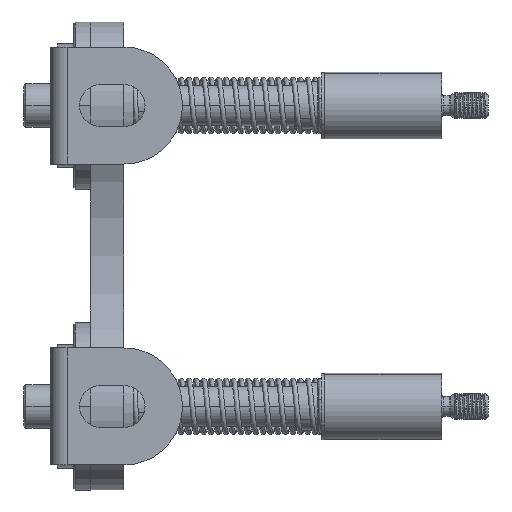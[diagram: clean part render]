
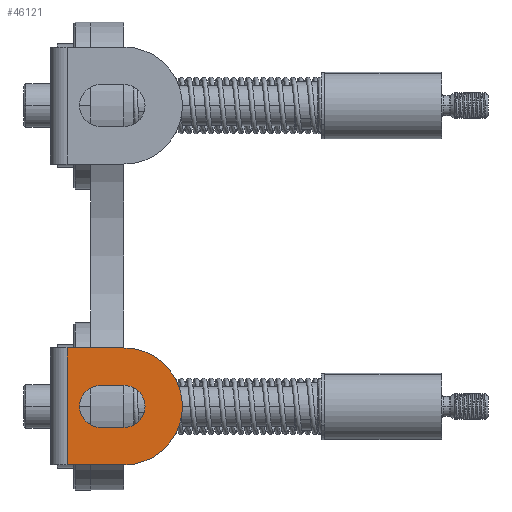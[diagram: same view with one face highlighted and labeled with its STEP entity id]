
A CAD part, left-side view. The second image highlights one B-rep face of the part: STEP entity #46121.
In plain terms, the highlighted planar face has unit normal (-1, 0, 0).
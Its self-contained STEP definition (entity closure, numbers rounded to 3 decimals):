
#64 = AXIS2_PLACEMENT_3D ( 'NONE', #42605, #29809, #21951 ) ;
#172 = LINE ( 'NONE', #12180, #48568 ) ;
#1618 = ORIENTED_EDGE ( 'NONE', *, *, #42352, .T. ) ;
#1858 = VECTOR ( 'NONE', #11670, 1000. ) ;
#2212 = AXIS2_PLACEMENT_3D ( 'NONE', #43453, #18862, #51287 ) ;
#3269 = EDGE_CURVE ( 'NONE', #18511, #31657, #13054, .T. ) ;
#3320 = EDGE_LOOP ( 'NONE', ( #41559, #33216, #13595, #45151, #16492 ) ) ;
#3548 = PLANE ( 'NONE',  #31992 ) ;
#5722 = AXIS2_PLACEMENT_3D ( 'NONE', #33762, #29338, #13895 ) ;
#5762 = DIRECTION ( 'NONE',  ( 0., -1., 0. ) ) ;
#6023 = VERTEX_POINT ( 'NONE', #15615 ) ;
#6166 = EDGE_CURVE ( 'NONE', #31657, #14651, #15351, .T. ) ;
#8255 = FACE_OUTER_BOUND ( 'NONE', #16270, .T. ) ;
#8442 = CARTESIAN_POINT ( 'NONE',  ( -116.5, 13.3, -45. ) ) ;
#8858 = VERTEX_POINT ( 'NONE', #25327 ) ;
#10660 = VERTEX_POINT ( 'NONE', #36806 ) ;
#10669 = CARTESIAN_POINT ( 'NONE',  ( -116.5, 7., -38.7 ) ) ;
#11377 = DIRECTION ( 'NONE',  ( -1., 0., 0. ) ) ;
#11670 = DIRECTION ( 'NONE',  ( 0., 1., 0. ) ) ;
#12132 = CARTESIAN_POINT ( 'NONE',  ( -116.5, 0., -62.5 ) ) ;
#12180 = CARTESIAN_POINT ( 'NONE',  ( -116.5, 17., -45. ) ) ;
#13054 = CIRCLE ( 'NONE', #2212, 6.3 ) ;
#13595 = ORIENTED_EDGE ( 'NONE', *, *, #3269, .F. ) ;
#13895 = DIRECTION ( 'NONE',  ( 0., 1., 0. ) ) ;
#14651 = VERTEX_POINT ( 'NONE', #18944 ) ;
#14660 = VECTOR ( 'NONE', #30787, 1000. ) ;
#15351 = LINE ( 'NONE', #10669, #14660 ) ;
#15615 = CARTESIAN_POINT ( 'NONE',  ( -116.5, 17., -62.5 ) ) ;
#15842 = CARTESIAN_POINT ( 'NONE',  ( -116.5, 20., -27.5 ) ) ;
#16270 = EDGE_LOOP ( 'NONE', ( #42871, #1618, #50655, #27110, #35103 ) ) ;
#16492 = ORIENTED_EDGE ( 'NONE', *, *, #25449, .F. ) ;
#16761 = LINE ( 'NONE', #21179, #30930 ) ;
#17756 = CIRCLE ( 'NONE', #45320, 17.5 ) ;
#18511 = VERTEX_POINT ( 'NONE', #51648 ) ;
#18862 = DIRECTION ( 'NONE',  ( -1., 0., 0. ) ) ;
#18944 = CARTESIAN_POINT ( 'NONE',  ( -116.5, 7., -38.7 ) ) ;
#19475 = CARTESIAN_POINT ( 'NONE',  ( -116.5, 0., -45. ) ) ;
#20005 = DIRECTION ( 'NONE',  ( -1., 0., 0. ) ) ;
#21179 = CARTESIAN_POINT ( 'NONE',  ( -116.5, 7., -51.3 ) ) ;
#21545 = LINE ( 'NONE', #24962, #44977 ) ;
#21951 = DIRECTION ( 'NONE',  ( 0., 1., 0. ) ) ;
#24190 = DIRECTION ( 'NONE',  ( 0., 1., 0. ) ) ;
#24962 = CARTESIAN_POINT ( 'NONE',  ( -116.5, 0., -62.5 ) ) ;
#25327 = CARTESIAN_POINT ( 'NONE',  ( -116.5, 7., -51.3 ) ) ;
#25342 = EDGE_CURVE ( 'NONE', #6023, #40784, #21545, .T. ) ;
#25449 = EDGE_CURVE ( 'NONE', #51436, #8858, #51685, .T. ) ;
#26504 = CARTESIAN_POINT ( 'NONE',  ( -116.5, 7., -45. ) ) ;
#27110 = ORIENTED_EDGE ( 'NONE', *, *, #45742, .T. ) ;
#27525 = VERTEX_POINT ( 'NONE', #36950 ) ;
#28204 = CARTESIAN_POINT ( 'NONE',  ( -116.5, -17.5, -45. ) ) ;
#29338 = DIRECTION ( 'NONE',  ( -1., 0., 0. ) ) ;
#29809 = DIRECTION ( 'NONE',  ( -1., 0., 0. ) ) ;
#30787 = DIRECTION ( 'NONE',  ( 0., 1., 0. ) ) ;
#30930 = VECTOR ( 'NONE', #5762, 1000. ) ;
#31657 = VERTEX_POINT ( 'NONE', #44543 ) ;
#31992 = AXIS2_PLACEMENT_3D ( 'NONE', #19475, #20005, #24190 ) ;
#33216 = ORIENTED_EDGE ( 'NONE', *, *, #6166, .F. ) ;
#33762 = CARTESIAN_POINT ( 'NONE',  ( -116.5, 0., -45. ) ) ;
#35103 = ORIENTED_EDGE ( 'NONE', *, *, #51612, .T. ) ;
#35174 = CARTESIAN_POINT ( 'NONE',  ( -116.5, 0., -45. ) ) ;
#35958 = CIRCLE ( 'NONE', #64, 6.3 ) ;
#36806 = CARTESIAN_POINT ( 'NONE',  ( -116.5, 17., -27.5 ) ) ;
#36950 = CARTESIAN_POINT ( 'NONE',  ( -116.5, 0., -27.5 ) ) ;
#37208 = DIRECTION ( 'NONE',  ( 0., 0., -1. ) ) ;
#38276 = CIRCLE ( 'NONE', #5722, 17.5 ) ;
#38784 = DIRECTION ( 'NONE',  ( -1., 0., 0. ) ) ;
#39366 = FACE_BOUND ( 'NONE', #3320, .T. ) ;
#40054 = EDGE_CURVE ( 'NONE', #8858, #18511, #16761, .T. ) ;
#40286 = EDGE_CURVE ( 'NONE', #14651, #51436, #35958, .T. ) ;
#40784 = VERTEX_POINT ( 'NONE', #12132 ) ;
#41559 = ORIENTED_EDGE ( 'NONE', *, *, #40286, .F. ) ;
#41886 = VERTEX_POINT ( 'NONE', #28204 ) ;
#42201 = DIRECTION ( 'NONE',  ( 0., 1., 0. ) ) ;
#42352 = EDGE_CURVE ( 'NONE', #10660, #6023, #172, .T. ) ;
#42605 = CARTESIAN_POINT ( 'NONE',  ( -116.5, 7., -45. ) ) ;
#42871 = ORIENTED_EDGE ( 'NONE', *, *, #43687, .T. ) ;
#43453 = CARTESIAN_POINT ( 'NONE',  ( -116.5, 0., -45. ) ) ;
#43687 = EDGE_CURVE ( 'NONE', #27525, #10660, #50629, .T. ) ;
#44543 = CARTESIAN_POINT ( 'NONE',  ( -116.5, 0., -38.7 ) ) ;
#44588 = DIRECTION ( 'NONE',  ( 0., -1., 0. ) ) ;
#44977 = VECTOR ( 'NONE', #44588, 1000. ) ;
#45151 = ORIENTED_EDGE ( 'NONE', *, *, #40054, .F. ) ;
#45320 = AXIS2_PLACEMENT_3D ( 'NONE', #35174, #11377, #51119 ) ;
#45742 = EDGE_CURVE ( 'NONE', #40784, #41886, #17756, .T. ) ;
#46121 = ADVANCED_FACE ( 'NONE', ( #39366, #8255 ), #3548, .T. ) ;
#48568 = VECTOR ( 'NONE', #37208, 1000. ) ;
#50003 = AXIS2_PLACEMENT_3D ( 'NONE', #26504, #38784, #42201 ) ;
#50629 = LINE ( 'NONE', #15842, #1858 ) ;
#50655 = ORIENTED_EDGE ( 'NONE', *, *, #25342, .T. ) ;
#51119 = DIRECTION ( 'NONE',  ( 0., 1., 0. ) ) ;
#51287 = DIRECTION ( 'NONE',  ( 0., 1., 0. ) ) ;
#51436 = VERTEX_POINT ( 'NONE', #8442 ) ;
#51612 = EDGE_CURVE ( 'NONE', #41886, #27525, #38276, .T. ) ;
#51648 = CARTESIAN_POINT ( 'NONE',  ( -116.5, 0., -51.3 ) ) ;
#51685 = CIRCLE ( 'NONE', #50003, 6.3 ) ;
